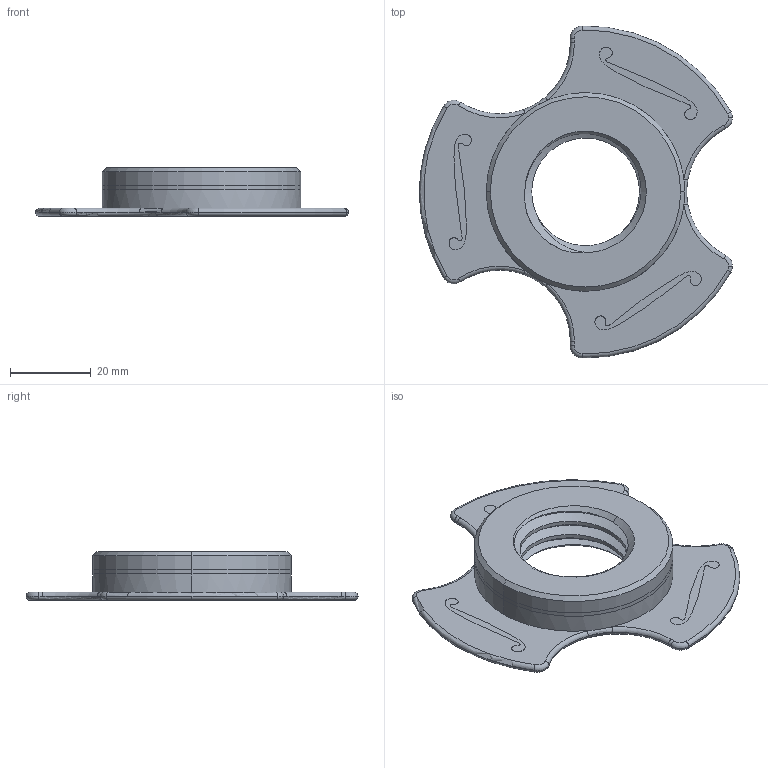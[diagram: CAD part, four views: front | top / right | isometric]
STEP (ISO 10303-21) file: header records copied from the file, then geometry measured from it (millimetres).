
FILE_DESCRIPTION (( 'STEP AP214' ), '1' );
FILE_NAME ('NutStraight_v3.2.STEP', '2019-04-10T20:44:33', ( '' ), ( '' ), 'SwSTEP 2.0', 'SolidWorks 2018', '' );
FILE_SCHEMA (( 'AUTOMOTIVE_DESIGN' ));
Length unit declared in the file: millimetre
Products named in the file (1): NutStraight_v3.2
Bounding box: 77.29 x 81.98 x 12 mm (x, y, z)
Volume: 19097.5 mm3; surface area: 13892.1 mm2
Topology: 5 solids, 5 shells, 202 faces, 543 edges, 353 vertices
Faces by surface type: bspline 126, torus 35, cylinder 19, plane 15, cone 7
Entity records: 11118 total; most frequent: CARTESIAN_POINT 6777, ORIENTED_EDGE 1086, DIRECTION 562, EDGE_CURVE 543, VERTEX_POINT 353, B_SPLINE_CURVE_WITH_KNOTS 256, EDGE_LOOP 214, AXIS2_PLACEMENT_3D 211
